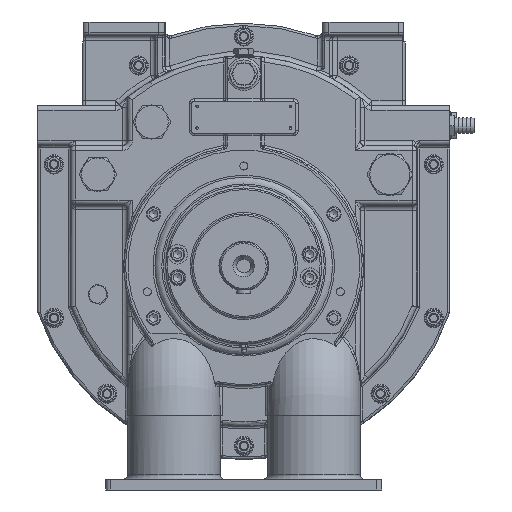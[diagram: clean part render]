
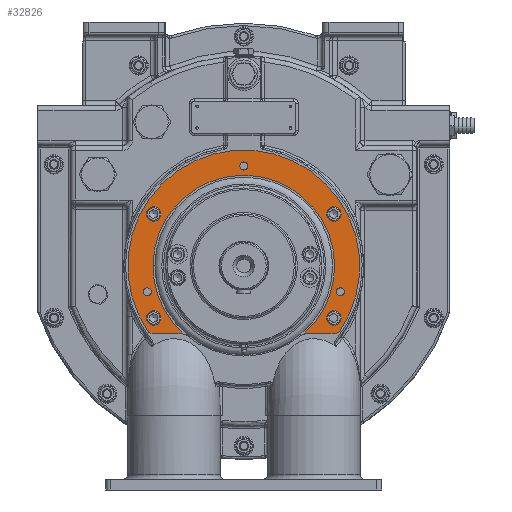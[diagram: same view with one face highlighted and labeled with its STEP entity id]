
A CAD part, left-side view. The second image highlights one B-rep face of the part: STEP entity #32826.
In plain terms, the highlighted planar face has unit normal (-1, 0, 0).
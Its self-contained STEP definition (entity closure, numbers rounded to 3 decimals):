
#1381=FACE_BOUND('',#5014,.T.);
#1382=FACE_BOUND('',#5015,.T.);
#1383=FACE_BOUND('',#5016,.T.);
#1384=FACE_BOUND('',#5017,.T.);
#1385=FACE_BOUND('',#5018,.T.);
#1386=FACE_BOUND('',#5019,.T.);
#1387=FACE_BOUND('',#5020,.T.);
#1879=PLANE('',#35346);
#2939=FACE_OUTER_BOUND('',#5013,.T.);
#5013=EDGE_LOOP('',(#22855,#22856,#22857,#22858,#22859,#22860,#22861,#22862));
#5014=EDGE_LOOP('',(#22863));
#5015=EDGE_LOOP('',(#22864));
#5016=EDGE_LOOP('',(#22865));
#5017=EDGE_LOOP('',(#22866));
#5018=EDGE_LOOP('',(#22867));
#5019=EDGE_LOOP('',(#22868));
#5020=EDGE_LOOP('',(#22869));
#7563=CIRCLE('',#35164,9.);
#7568=CIRCLE('',#35179,9.);
#7573=CIRCLE('',#35194,9.);
#7578=CIRCLE('',#35209,9.);
#7630=CIRCLE('',#35327,6.);
#7634=CIRCLE('',#35333,6.);
#7637=CIRCLE('',#35338,5.053);
#7639=CIRCLE('',#35341,5.053);
#7641=CIRCLE('',#35344,5.053);
#7643=CIRCLE('',#35347,20.);
#7644=CIRCLE('',#35348,145.);
#7645=CIRCLE('',#35349,20.);
#7646=CIRCLE('',#35350,113.5);
#9493=LINE('',#51693,#11249);
#9503=LINE('',#51744,#11259);
#11249=VECTOR('',#40589,10.);
#11259=VECTOR('',#40645,10.);
#13249=VERTEX_POINT('',#51050);
#13267=VERTEX_POINT('',#51118);
#13285=VERTEX_POINT('',#51186);
#13303=VERTEX_POINT('',#51254);
#13410=VERTEX_POINT('',#51690);
#13411=VERTEX_POINT('',#51692);
#13415=VERTEX_POINT('',#51702);
#13419=VERTEX_POINT('',#51714);
#13420=VERTEX_POINT('',#51716);
#13423=VERTEX_POINT('',#51725);
#13425=VERTEX_POINT('',#51731);
#13427=VERTEX_POINT('',#51737);
#13429=VERTEX_POINT('',#51743);
#13430=VERTEX_POINT('',#51745);
#13431=VERTEX_POINT('',#51747);
#16568=EDGE_CURVE('',#13249,#13249,#7563,.T.);
#16594=EDGE_CURVE('',#13267,#13267,#7568,.T.);
#16620=EDGE_CURVE('',#13285,#13285,#7573,.T.);
#16646=EDGE_CURVE('',#13303,#13303,#7578,.T.);
#16807=EDGE_CURVE('',#13410,#13411,#9493,.T.);
#16813=EDGE_CURVE('',#13415,#13410,#7630,.T.);
#16819=EDGE_CURVE('',#13419,#13420,#7634,.T.);
#16823=EDGE_CURVE('',#13423,#13423,#7637,.T.);
#16826=EDGE_CURVE('',#13425,#13425,#7639,.T.);
#16829=EDGE_CURVE('',#13427,#13427,#7641,.T.);
#16832=EDGE_CURVE('',#13429,#13419,#9503,.T.);
#16833=EDGE_CURVE('',#13430,#13429,#7643,.T.);
#16834=EDGE_CURVE('',#13431,#13430,#7644,.T.);
#16835=EDGE_CURVE('',#13411,#13431,#7645,.T.);
#16836=EDGE_CURVE('',#13420,#13415,#7646,.T.);
#22855=ORIENTED_EDGE('',*,*,#16819,.F.);
#22856=ORIENTED_EDGE('',*,*,#16832,.F.);
#22857=ORIENTED_EDGE('',*,*,#16833,.F.);
#22858=ORIENTED_EDGE('',*,*,#16834,.F.);
#22859=ORIENTED_EDGE('',*,*,#16835,.F.);
#22860=ORIENTED_EDGE('',*,*,#16807,.F.);
#22861=ORIENTED_EDGE('',*,*,#16813,.F.);
#22862=ORIENTED_EDGE('',*,*,#16836,.F.);
#22863=ORIENTED_EDGE('',*,*,#16568,.T.);
#22864=ORIENTED_EDGE('',*,*,#16594,.T.);
#22865=ORIENTED_EDGE('',*,*,#16620,.T.);
#22866=ORIENTED_EDGE('',*,*,#16646,.T.);
#22867=ORIENTED_EDGE('',*,*,#16823,.T.);
#22868=ORIENTED_EDGE('',*,*,#16826,.T.);
#22869=ORIENTED_EDGE('',*,*,#16829,.T.);
#32826=ADVANCED_FACE('',(#2939,#1381,#1382,#1383,#1384,#1385,#1386,#1387),
#1879,.F.);
#35164=AXIS2_PLACEMENT_3D('',#51051,#40153,#40154);
#35179=AXIS2_PLACEMENT_3D('',#51119,#40197,#40198);
#35194=AXIS2_PLACEMENT_3D('',#51187,#40241,#40242);
#35209=AXIS2_PLACEMENT_3D('',#51255,#40285,#40286);
#35327=AXIS2_PLACEMENT_3D('',#51704,#40599,#40600);
#35333=AXIS2_PLACEMENT_3D('',#51717,#40613,#40614);
#35338=AXIS2_PLACEMENT_3D('',#51726,#40624,#40625);
#35341=AXIS2_PLACEMENT_3D('',#51732,#40631,#40632);
#35344=AXIS2_PLACEMENT_3D('',#51738,#40638,#40639);
#35346=AXIS2_PLACEMENT_3D('',#51742,#40643,#40644);
#35347=AXIS2_PLACEMENT_3D('',#51746,#40646,#40647);
#35348=AXIS2_PLACEMENT_3D('',#51748,#40648,#40649);
#35349=AXIS2_PLACEMENT_3D('',#51749,#40650,#40651);
#35350=AXIS2_PLACEMENT_3D('',#51750,#40652,#40653);
#40153=DIRECTION('center_axis',(1.,0.,0.));
#40154=DIRECTION('ref_axis',(0.,1.,0.));
#40197=DIRECTION('center_axis',(1.,0.,0.));
#40198=DIRECTION('ref_axis',(0.,1.,0.));
#40241=DIRECTION('center_axis',(1.,0.,0.));
#40242=DIRECTION('ref_axis',(0.,1.,0.));
#40285=DIRECTION('center_axis',(1.,0.,0.));
#40286=DIRECTION('ref_axis',(0.,1.,0.));
#40589=DIRECTION('',(0.,1.,0.));
#40599=DIRECTION('center_axis',(-1.,0.,0.));
#40600=DIRECTION('ref_axis',(0.,-0.341,0.94));
#40613=DIRECTION('center_axis',(-1.,0.,0.));
#40614=DIRECTION('ref_axis',(0.,0.341,0.94));
#40624=DIRECTION('center_axis',(1.,0.,0.));
#40625=DIRECTION('ref_axis',(0.,1.,0.));
#40631=DIRECTION('center_axis',(1.,0.,0.));
#40632=DIRECTION('ref_axis',(0.,1.,0.));
#40638=DIRECTION('center_axis',(1.,0.,0.));
#40639=DIRECTION('ref_axis',(0.,1.,0.));
#40643=DIRECTION('center_axis',(1.,0.,0.));
#40644=DIRECTION('ref_axis',(0.,-1.,0.));
#40645=DIRECTION('',(0.,1.,0.));
#40646=DIRECTION('center_axis',(1.,0.,0.));
#40647=DIRECTION('ref_axis',(0.,-0.496,-0.868));
#40648=DIRECTION('center_axis',(1.,0.,0.));
#40649=DIRECTION('ref_axis',(0.,1.,0.));
#40650=DIRECTION('center_axis',(1.,0.,0.));
#40651=DIRECTION('ref_axis',(0.,0.496,-0.868));
#40652=DIRECTION('center_axis',(-1.,0.,0.));
#40653=DIRECTION('ref_axis',(0.,-1.,0.));
#51050=CARTESIAN_POINT('',(-299.5,103.583,-96.));
#51051=CARTESIAN_POINT('Origin',(-299.5,112.583,-96.));
#51118=CARTESIAN_POINT('',(-299.5,103.583,34.));
#51119=CARTESIAN_POINT('Origin',(-299.5,112.583,34.));
#51186=CARTESIAN_POINT('',(-299.5,-121.583,34.));
#51187=CARTESIAN_POINT('Origin',(-299.5,-112.583,34.));
#51254=CARTESIAN_POINT('',(-299.5,-121.583,-96.));
#51255=CARTESIAN_POINT('Origin',(-299.5,-112.583,-96.));
#51690=CARTESIAN_POINT('',(-299.5,75.903,-116.));
#51692=CARTESIAN_POINT('',(-299.5,110.268,-116.));
#51693=CARTESIAN_POINT('',(-299.5,36.849,-116.));
#51702=CARTESIAN_POINT('',(-299.5,75.163,-116.046));
#51704=CARTESIAN_POINT('Origin',(-299.5,75.903,-122.));
#51714=CARTESIAN_POINT('',(-299.5,-75.903,-116.));
#51716=CARTESIAN_POINT('',(-299.5,-75.163,-116.046));
#51717=CARTESIAN_POINT('Origin',(-299.5,-75.903,-122.));
#51725=CARTESIAN_POINT('',(-299.5,-5.053,94.));
#51726=CARTESIAN_POINT('Origin',(-299.5,0.,
94.));
#51731=CARTESIAN_POINT('',(-299.5,-125.794,-63.352));
#51732=CARTESIAN_POINT('Origin',(-299.5,-120.741,-63.352));
#51737=CARTESIAN_POINT('',(-299.5,115.688,-63.352));
#51738=CARTESIAN_POINT('Origin',(-299.5,120.741,-63.352));
#51742=CARTESIAN_POINT('Origin',(-299.5,0.,
-31.));
#51743=CARTESIAN_POINT('',(-299.5,-110.268,-116.));
#51744=CARTESIAN_POINT('',(-299.5,-60.578,-116.));
#51745=CARTESIAN_POINT('',(-299.5,-118.849,-114.065));
#51746=CARTESIAN_POINT('Origin',(-299.5,-110.268,-96.));
#51747=CARTESIAN_POINT('',(-299.5,118.849,-114.065));
#51748=CARTESIAN_POINT('Origin',(-299.5,0.,
-31.));
#51749=CARTESIAN_POINT('Origin',(-299.5,110.268,-96.));
#51750=CARTESIAN_POINT('Origin',(-299.5,0.,
-31.));
